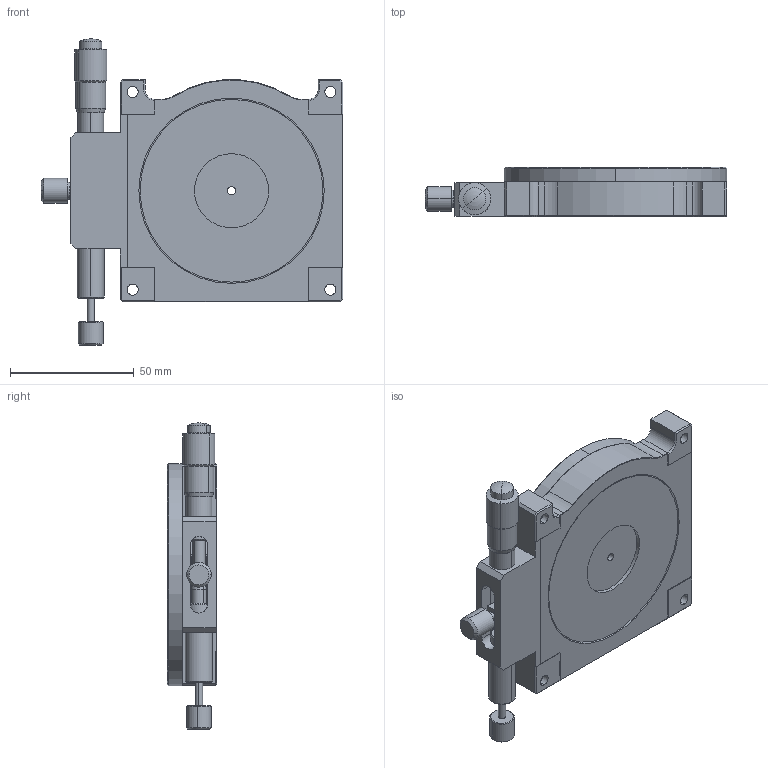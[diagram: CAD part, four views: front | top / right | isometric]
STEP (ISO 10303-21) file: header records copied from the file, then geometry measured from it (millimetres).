
FILE_DESCRIPTION (( 'STEP AP214' ), '1' );
FILE_NAME ('PR90-L.STEP', '2022-09-24T03:56:01', ( '' ), ( '' ), 'SwSTEP 2.0', 'SolidWorks 2017', '' );
FILE_SCHEMA (( 'AUTOMOTIVE_DESIGN' ));
Length unit declared in the file: millimetre
Products named in the file (6): RS90S-2; PR90-L; RS90S-1; MT13-3-1; RS90L-1; RS90L-2
Assembly tree (5 placements, depth 2):
  PR90-L
    RS90L-2
    RS90L-1
    RS90S-2
    MT13-3-1
    RS90S-1
Bounding box: 122 x 20 x 124 mm (x, y, z)
Volume: 152774.6 mm3; surface area: 51826.8 mm2
Topology: 5 solids, 7 shells, 661 faces, 1698 edges, 1102 vertices
Faces by surface type: plane 358, bspline 154, cylinder 116, cone 27, sphere 4, torus 2
Entity records: 26558 total; most frequent: CARTESIAN_POINT 11071, ORIENTED_EDGE 3376, DIRECTION 2690, EDGE_CURVE 1688, VERTEX_POINT 1100, VECTOR 1084, LINE 1084, AXIS2_PLACEMENT_3D 803
